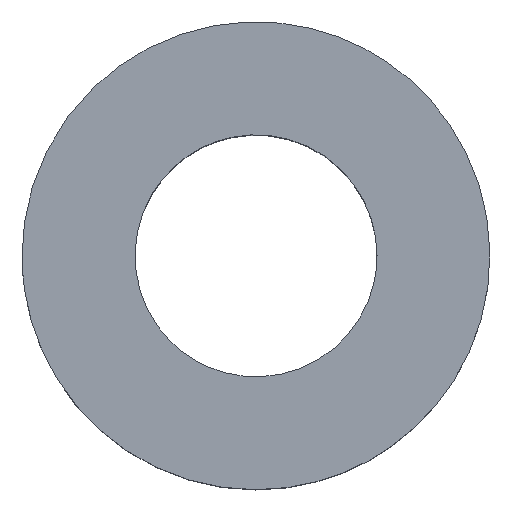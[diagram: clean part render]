
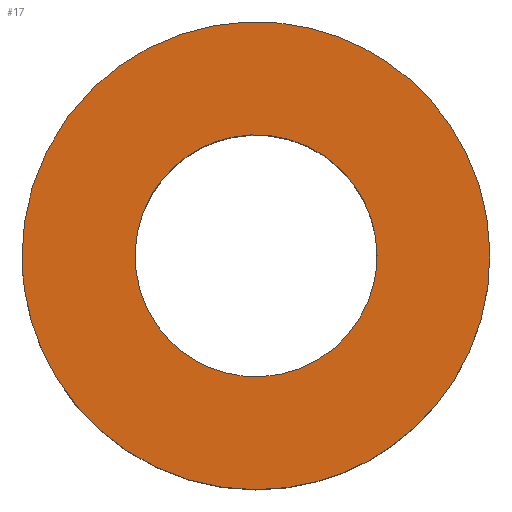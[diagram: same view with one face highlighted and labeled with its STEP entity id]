
A CAD part, top view. The second image highlights one B-rep face of the part: STEP entity #17.
In plain terms, the highlighted free-form (B-spline) face has degree [1, 1] with [2, 2] control points.
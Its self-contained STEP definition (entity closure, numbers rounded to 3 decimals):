
#17 = ADVANCED_FACE('',(#18,#32),#46,.F.);
#18 = FACE_BOUND('',#19,.T.);
#19 = EDGE_LOOP('',(#20));
#20 = ORIENTED_EDGE('',*,*,#21,.F.);
#21 = EDGE_CURVE('',#22,#22,#24,.T.);
#22 = VERTEX_POINT('',#23);
#23 = CARTESIAN_POINT('',(1.125,0.,1.5));
#24 = ( BOUNDED_CURVE() B_SPLINE_CURVE(2,(#25,#26,#27,#28,#29,#30,#31),
.UNSPECIFIED.,.T.,.F.) B_SPLINE_CURVE_WITH_KNOTS((1,2,2,2,2,1),(
    -2.094,0.,2.094,4.189,6.283,
8.378),.UNSPECIFIED.) CURVE() GEOMETRIC_REPRESENTATION_ITEM() 
RATIONAL_B_SPLINE_CURVE((1.,0.5,1.,0.5,1.,0.5,1.)) REPRESENTATION_ITEM(
  '') );
#25 = CARTESIAN_POINT('',(1.125,0.,1.5));
#26 = CARTESIAN_POINT('',(1.125,1.949,1.5));
#27 = CARTESIAN_POINT('',(-0.563,0.974,1.5));
#28 = CARTESIAN_POINT('',(-2.25,0.,1.5));
#29 = CARTESIAN_POINT('',(-0.563,-0.974,1.5));
#30 = CARTESIAN_POINT('',(1.125,-1.949,1.5));
#31 = CARTESIAN_POINT('',(1.125,0.,1.5));
#32 = FACE_BOUND('',#33,.T.);
#33 = EDGE_LOOP('',(#34));
#34 = ORIENTED_EDGE('',*,*,#35,.F.);
#35 = EDGE_CURVE('',#36,#36,#38,.T.);
#36 = VERTEX_POINT('',#37);
#37 = CARTESIAN_POINT('',(-2.175,0.,1.5));
#38 = ( BOUNDED_CURVE() B_SPLINE_CURVE(2,(#39,#40,#41,#42,#43,#44,#45),
.UNSPECIFIED.,.T.,.F.) B_SPLINE_CURVE_WITH_KNOTS((1,2,2,2,2,1),(
    -2.094,0.,2.094,4.189,6.283,
8.378),.UNSPECIFIED.) CURVE() GEOMETRIC_REPRESENTATION_ITEM() 
RATIONAL_B_SPLINE_CURVE((1.,0.5,1.,0.5,1.,0.5,1.)) REPRESENTATION_ITEM(
  '') );
#39 = CARTESIAN_POINT('',(-2.175,0.,1.5));
#40 = CARTESIAN_POINT('',(-2.175,3.767,1.5));
#41 = CARTESIAN_POINT('',(1.088,1.884,1.5));
#42 = CARTESIAN_POINT('',(4.35,0.,1.5));
#43 = CARTESIAN_POINT('',(1.088,-1.884,1.5));
#44 = CARTESIAN_POINT('',(-2.175,-3.767,1.5));
#45 = CARTESIAN_POINT('',(-2.175,0.,1.5));
#46 = B_SPLINE_SURFACE_WITH_KNOTS('',1,1,(
    (#47,#48)
    ,(#49,#50
    )),.UNSPECIFIED.,.F.,.F.,.F.,(2,2),(2,2),(-2.175,2.175),(-2.175,
    2.175),.PIECEWISE_BEZIER_KNOTS.);
#47 = CARTESIAN_POINT('',(2.175,-2.175,1.5));
#48 = CARTESIAN_POINT('',(2.175,2.175,1.5));
#49 = CARTESIAN_POINT('',(-2.175,-2.175,1.5));
#50 = CARTESIAN_POINT('',(-2.175,2.175,1.5));
